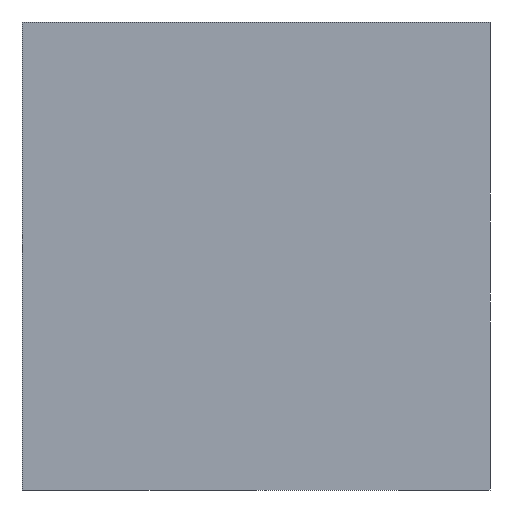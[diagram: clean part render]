
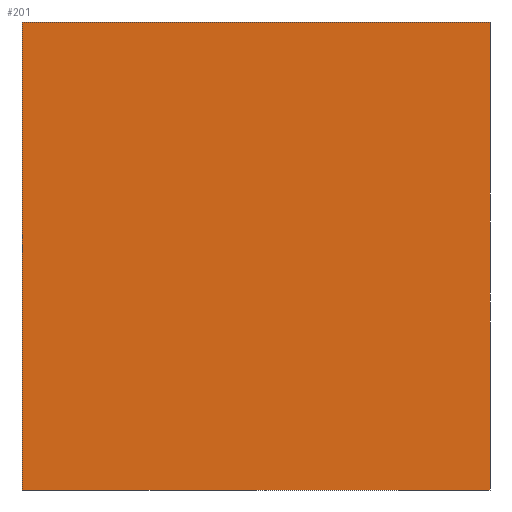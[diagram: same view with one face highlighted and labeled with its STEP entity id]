
A CAD part, left-side view. The second image highlights one B-rep face of the part: STEP entity #201.
In plain terms, the highlighted planar face has unit normal (-1, 0, 0).
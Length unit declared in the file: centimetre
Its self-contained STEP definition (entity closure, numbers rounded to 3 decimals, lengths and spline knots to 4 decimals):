
#1 = VERTEX_POINT ( 'NONE', #439 ) ;
#20 = CARTESIAN_POINT ( 'NONE',  ( 0., 1000., 1000. ) ) ;
#25 = EDGE_LOOP ( 'NONE', ( #417, #93, #233, #480 ) ) ;
#42 = DIRECTION ( 'NONE',  ( 0., -1., 0. ) ) ;
#58 = LINE ( 'NONE', #241, #264 ) ;
#60 = LINE ( 'NONE', #20, #228 ) ;
#62 = PLANE ( 'NONE',  #415 ) ;
#69 = EDGE_CURVE ( 'NONE', #1, #127, #437, .T. ) ;
#93 = ORIENTED_EDGE ( 'NONE', *, *, #492, .F. ) ;
#99 = DIRECTION ( 'NONE',  ( 0., 0., -1. ) ) ;
#127 = VERTEX_POINT ( 'NONE', #348 ) ;
#147 = VECTOR ( 'NONE', #261, 100. ) ;
#174 = CARTESIAN_POINT ( 'NONE',  ( 0., 1000., 1000. ) ) ;
#201 = ADVANCED_FACE ( 'NONE', ( #361 ), #62, .F. ) ;
#202 = DIRECTION ( 'NONE',  ( 0., 0., -1. ) ) ;
#212 = EDGE_CURVE ( 'NONE', #491, #394, #58, .T. ) ;
#228 = VECTOR ( 'NONE', #202, 100. ) ;
#233 = ORIENTED_EDGE ( 'NONE', *, *, #212, .F. ) ;
#241 = CARTESIAN_POINT ( 'NONE',  ( 0., 1000., 1000. ) ) ;
#255 = VECTOR ( 'NONE', #42, 100. ) ;
#261 = DIRECTION ( 'NONE',  ( 0., 0., -1. ) ) ;
#264 = VECTOR ( 'NONE', #411, 100. ) ;
#348 = CARTESIAN_POINT ( 'NONE',  ( 0., 0., 0. ) ) ;
#355 = EDGE_CURVE ( 'NONE', #491, #1, #60, .T. ) ;
#361 = FACE_OUTER_BOUND ( 'NONE', #25, .T. ) ;
#394 = VERTEX_POINT ( 'NONE', #473 ) ;
#411 = DIRECTION ( 'NONE',  ( 0., -1., 0. ) ) ;
#414 = DIRECTION ( 'NONE',  ( 1., 0., 0. ) ) ;
#415 = AXIS2_PLACEMENT_3D ( 'NONE', #535, #414, #99 ) ;
#417 = ORIENTED_EDGE ( 'NONE', *, *, #69, .T. ) ;
#437 = LINE ( 'NONE', #564, #255 ) ;
#439 = CARTESIAN_POINT ( 'NONE',  ( 0., 1000., 0. ) ) ;
#467 = CARTESIAN_POINT ( 'NONE',  ( 0., 0., 1000. ) ) ;
#473 = CARTESIAN_POINT ( 'NONE',  ( 0., 0., 1000. ) ) ;
#480 = ORIENTED_EDGE ( 'NONE', *, *, #355, .T. ) ;
#491 = VERTEX_POINT ( 'NONE', #174 ) ;
#492 = EDGE_CURVE ( 'NONE', #394, #127, #516, .T. ) ;
#516 = LINE ( 'NONE', #467, #147 ) ;
#535 = CARTESIAN_POINT ( 'NONE',  ( 0., 1000., 1000. ) ) ;
#564 = CARTESIAN_POINT ( 'NONE',  ( 0., 1000., 0. ) ) ;
